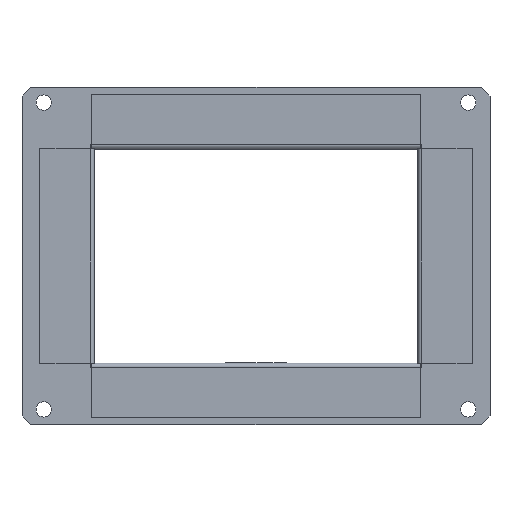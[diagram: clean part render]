
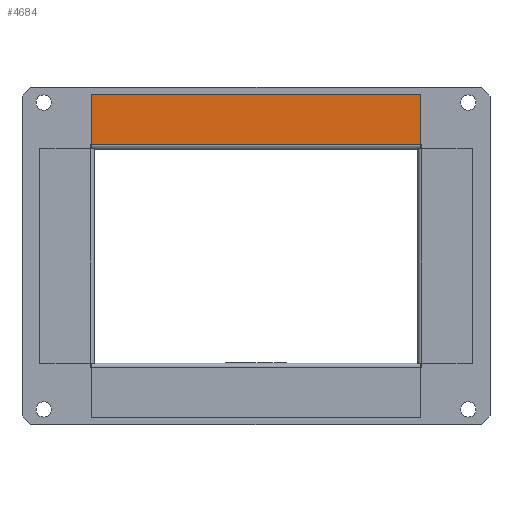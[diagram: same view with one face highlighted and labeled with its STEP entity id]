
A CAD part, top view. The second image highlights one B-rep face of the part: STEP entity #4684.
In plain terms, the highlighted planar face has unit normal (0, 0, 1) as drawn and (0, 0, -1) by its records, which use the part's own axes.
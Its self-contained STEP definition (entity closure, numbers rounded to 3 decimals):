
#164 = LINE ( 'NONE', #6359, #4261 ) ;
#263 = CARTESIAN_POINT ( 'NONE',  ( 75.8, 1.8, 0. ) ) ;
#465 = LINE ( 'NONE', #5974, #1832 ) ;
#587 = ORIENTED_EDGE ( 'NONE', *, *, #4723, .F. ) ;
#679 = VERTEX_POINT ( 'NONE', #2821 ) ;
#805 = LINE ( 'NONE', #263, #3344 ) ;
#951 = VERTEX_POINT ( 'NONE', #1703 ) ;
#1231 = CARTESIAN_POINT ( 'NONE',  ( -75.8, 1.8, 0. ) ) ;
#1703 = CARTESIAN_POINT ( 'NONE',  ( -75.8, 25., 0. ) ) ;
#1832 = VECTOR ( 'NONE', #5461, 1000. ) ;
#1861 = CARTESIAN_POINT ( 'NONE',  ( 75.8, 0., 0. ) ) ;
#2219 = VECTOR ( 'NONE', #2894, 1000. ) ;
#2322 = EDGE_CURVE ( 'NONE', #951, #3056, #164, .T. ) ;
#2659 = ORIENTED_EDGE ( 'NONE', *, *, #3108, .T. ) ;
#2821 = CARTESIAN_POINT ( 'NONE',  ( 75.8, 25., 0. ) ) ;
#2875 = DIRECTION ( 'NONE',  ( 0., 0., -1. ) ) ;
#2894 = DIRECTION ( 'NONE',  ( 0., -1., 0. ) ) ;
#3056 = VERTEX_POINT ( 'NONE', #1231 ) ;
#3108 = EDGE_CURVE ( 'NONE', #3672, #3056, #805, .T. ) ;
#3180 = EDGE_LOOP ( 'NONE', ( #4842, #587, #5710, #2659 ) ) ;
#3306 = DIRECTION ( 'NONE',  ( -1., 0., 0. ) ) ;
#3344 = VECTOR ( 'NONE', #3306, 1000. ) ;
#3672 = VERTEX_POINT ( 'NONE', #5589 ) ;
#4261 = VECTOR ( 'NONE', #5331, 1000. ) ;
#4684 = ADVANCED_FACE ( 'NONE', ( #6065 ), #5947, .T. ) ;
#4723 = EDGE_CURVE ( 'NONE', #679, #951, #465, .T. ) ;
#4842 = ORIENTED_EDGE ( 'NONE', *, *, #2322, .F. ) ;
#4948 = LINE ( 'NONE', #4964, #2219 ) ;
#4964 = CARTESIAN_POINT ( 'NONE',  ( 75.8, 0., 0. ) ) ;
#5205 = AXIS2_PLACEMENT_3D ( 'NONE', #1861, #2875, #6463 ) ;
#5331 = DIRECTION ( 'NONE',  ( 0., -1., 0. ) ) ;
#5461 = DIRECTION ( 'NONE',  ( -1., 0., 0. ) ) ;
#5589 = CARTESIAN_POINT ( 'NONE',  ( 75.8, 1.8, 0. ) ) ;
#5710 = ORIENTED_EDGE ( 'NONE', *, *, #5952, .T. ) ;
#5947 = PLANE ( 'NONE',  #5205 ) ;
#5952 = EDGE_CURVE ( 'NONE', #679, #3672, #4948, .T. ) ;
#5974 = CARTESIAN_POINT ( 'NONE',  ( 75.8, 25., 0. ) ) ;
#6065 = FACE_OUTER_BOUND ( 'NONE', #3180, .T. ) ;
#6359 = CARTESIAN_POINT ( 'NONE',  ( -75.8, 0., 0. ) ) ;
#6463 = DIRECTION ( 'NONE',  ( -1., 0., 0. ) ) ;
